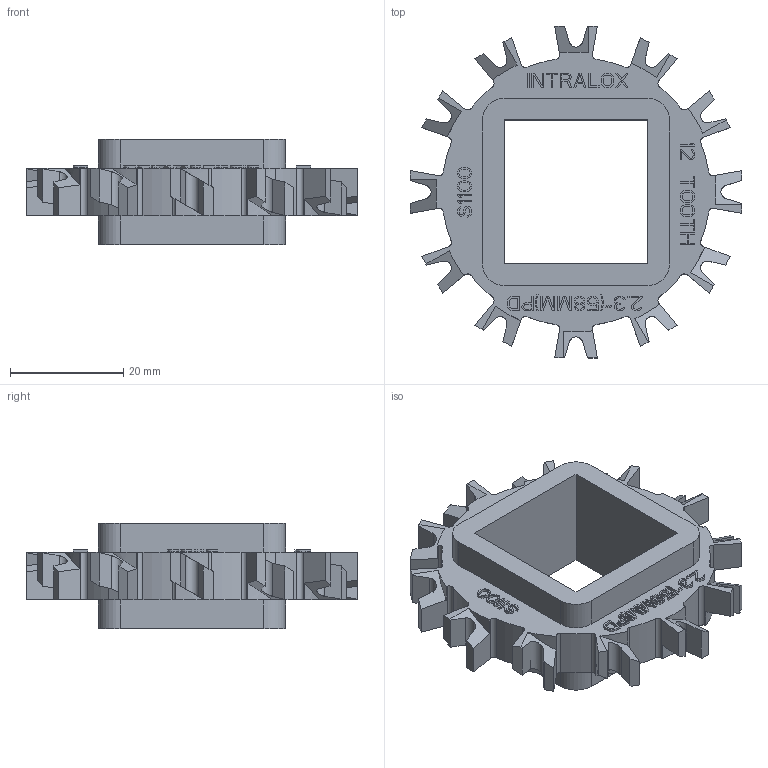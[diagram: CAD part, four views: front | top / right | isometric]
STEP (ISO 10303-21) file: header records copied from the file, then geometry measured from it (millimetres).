
FILE_DESCRIPTION((''),'2;1');
FILE_NAME('S1100_SPROCKET_23X1_25_SQ','2008-12-12T',('jmumphre'),(''),'PRO/ENGINEER BY PARAMETRIC TECHNOLOGY CORPORATION, 2008150','PRO/ENGINEER BY PARAMETRIC TECHNOLOGY CORPORATION, 2008150','');
FILE_SCHEMA(('CONFIG_CONTROL_DESIGN'));
Length unit declared in the file: inch
Products named in the file (1): S1100_SPROCKET_23X1_25_SQ
Bounding box: 58.56 x 58.56 x 18.54 mm (x, y, z)
Volume: 15818.9 mm3; surface area: 8706.5 mm2
Topology: 1 solids, 1 shells, 975 faces, 2781 edges, 1854 vertices
Faces by surface type: plane 895, cylinder 80
Entity records: 31591 total; most frequent: CARTESIAN_POINT 6066, ORIENTED_EDGE 5562, DIRECTION 4795, EDGE_CURVE 2781, VECTOR 2621, LINE 2621, VERTEX_POINT 1854, AXIS2_PLACEMENT_3D 1087
